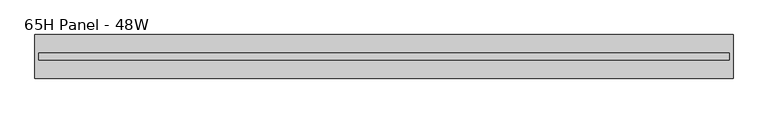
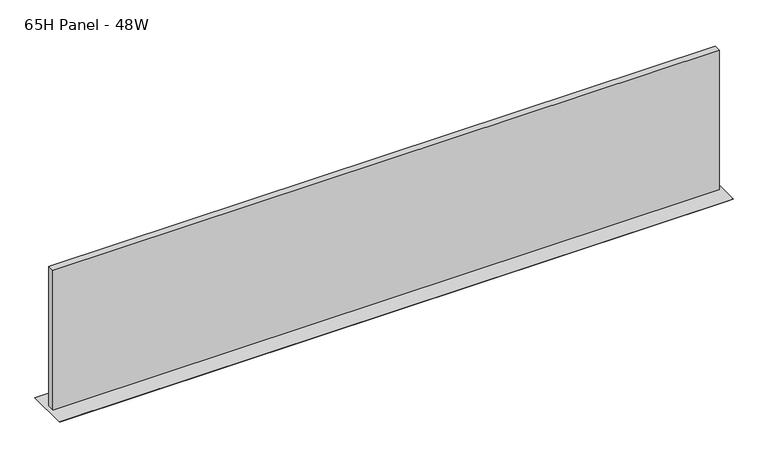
"""IFC4 building model written with IfcOpenShell, lengths in millimetres: furniture geometry, Steelcase - Montage - Tiles - 10H - Frameless Glass Stacker : 65H Panel - 48W."""

from ifc_helpers import new_model, si_unit, frame, origin, place, context, project, spatial, polyline, outline, extrude, faceted_brep, source, transform, mapped, element, save


def furniture_65h_panel_48w_35d0e2b8(model_context):
    return source(origin(), model_context, "Body", "SolidModel", [
        faceted_brep([(1219.2, -38.1000015, 1660.525), (0.0, -38.1000015, 1660.525), (6.35, -31.7500015, 1654.175), (1212.85, -31.7500015, 1654.175), (6.35, 31.7500015, 1654.175), (1212.85, 31.7500015, 1654.175), (0.0, 38.1000015, 1660.525), (1219.2, 38.1000015, 1660.525)], [[[0, 1, 2, 3]], [[3, 2, 4, 5]], [[6, 7, 5, 4]], [[1, 0, 7, 6]], [[2, 1, 6, 4]], [[0, 3, 5, 7]]]),
        extrude(outline(polyline([(1212.4181828, -5.9944001), (6.7818001, -5.9944001), (6.7818001, 5.9944008), (1212.4181828, 5.9944008), (1212.4181828, -5.9944001)])), frame((0.0, 0.0, 1660.525), z_axis=(0.0, 0.0, 1.0), x_axis=(1.0, 0.0, 0.0)), (0.0, 0.0, 1.0), 267.7160475),
    ])


if __name__ == "__main__":
    model = new_model("IFC4")
    model_context = context("Model", 3, world=origin())
    ifc_project = project(units=[si_unit("LENGTHUNIT", "METRE", prefix="MILLI")], contexts=[model_context])
    site = spatial("IfcSite", under=ifc_project)
    building = spatial("IfcBuilding", under=site)
    placement = place(None, origin())
    furniture_65h_panel_48w_shape = furniture_65h_panel_48w_35d0e2b8(model_context)
    element("IfcFurniture", 1, ObjectType="Steelcase - Montage - Tiles - 10H - Frameless Glass Stacker : 65H Panel - 48W", at=placement, inside=building, context=model_context, shape_type="MappedRepresentation", body=[
        mapped(furniture_65h_panel_48w_shape, transform((0.0, 0.0, 0.0), x_axis=(1.0, 0.0, 0.0), y_axis=(0.0, 1.0, 0.0), z_axis=(0.0, 0.0, 1.0))),
    ])
    save(model, "model.ifc")
